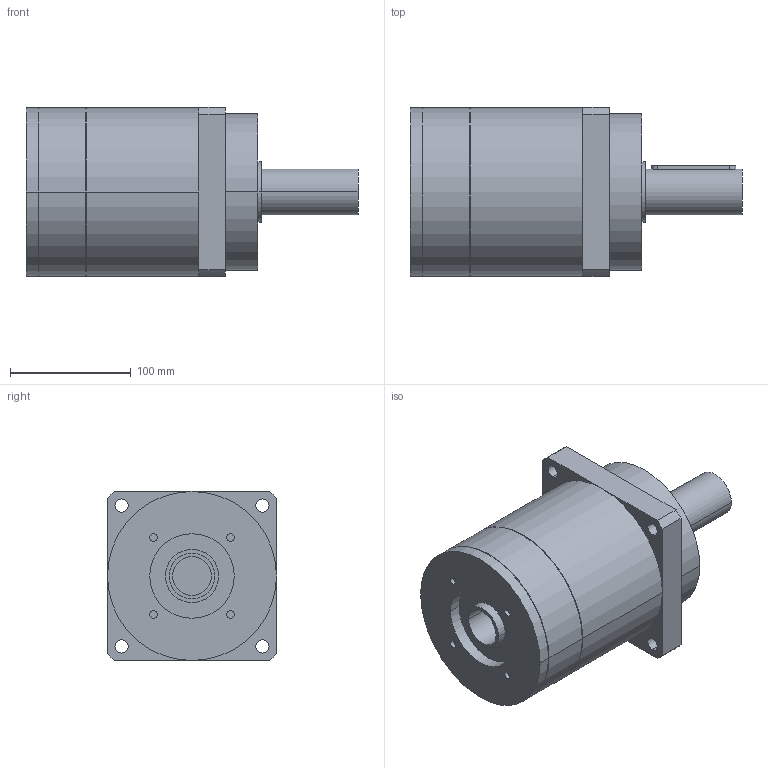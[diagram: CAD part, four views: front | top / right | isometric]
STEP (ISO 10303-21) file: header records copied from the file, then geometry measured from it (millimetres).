
FILE_DESCRIPTION(('CoCreate Modeling STEP Export'),'2;1');
FILE_NAME('GPR150_ig-3-4-5-7_38_B5_32_P15.stp','2014-08-19T16:43:05',(''),(''),'CoCreate Modeling STEP processor for AP214 (Solid Model)','CoCreate Modeling 16.00C 25-Feb-2009 (C) Parametric Technology GmbH','');
FILE_SCHEMA(('AUTOMOTIVE_DESIGN { 1 0 10303 214 1 1 1 1 }'));
Length unit declared in the file: millimetre
Products named in the file (2): GPR150_ig-3-4-5-7_38_B5_32_P15
Assembly tree (1 placements, depth 2):
  GPR150_ig-3-4-5-7_38_B5_32_P15
    GPR150_ig-3-4-5-7_38_B5_32_P15
Bounding box: 275 x 140 x 140 mm (x, y, z)
Volume: 2984305.6 mm3; surface area: 151147.4 mm2
Topology: 1 solids, 1 shells, 88 faces, 223 edges, 153 vertices
Faces by surface type: cylinder 52, plane 30, cone 6
Entity records: 2322 total; most frequent: ORIENTED_EDGE 442, CARTESIAN_POINT 425, DIRECTION 320, EDGE_CURVE 221, VERTEX_POINT 153, AXIS2_PLACEMENT_3D 120, EDGE_LOOP 114, FACE_OUTER_BOUND 88
